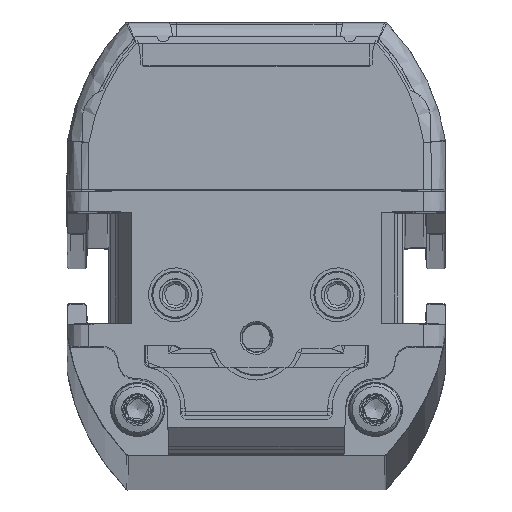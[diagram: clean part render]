
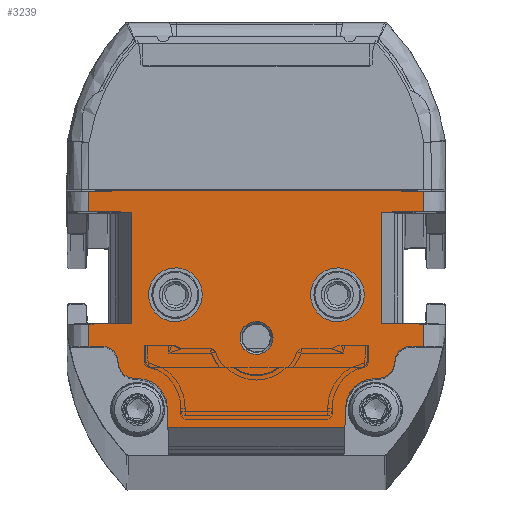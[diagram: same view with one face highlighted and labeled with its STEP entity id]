
A CAD part, top view. The second image highlights one B-rep face of the part: STEP entity #3239.
In plain terms, the highlighted planar face has unit normal (0, 0, 1).
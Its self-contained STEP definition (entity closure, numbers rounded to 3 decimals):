
#1178=FACE_BOUND('',#5343,.T.);
#1179=FACE_BOUND('',#5344,.T.);
#1180=FACE_BOUND('',#5345,.T.);
#1181=FACE_BOUND('',#5346,.T.);
#1900=CIRCLE('',#17502,2.5);
#1901=CIRCLE('',#17504,2.5);
#1902=CIRCLE('',#17506,1.55);
#1905=CIRCLE('',#17576,1.5);
#1906=CIRCLE('',#17577,1.5);
#1907=CIRCLE('',#17578,1.5);
#1908=CIRCLE('',#17579,1.5);
#1909=CIRCLE('',#17580,2.75);
#1910=CIRCLE('',#17581,2.75);
#3239=ADVANCED_FACE('',(#1178,#1179,#1180,#1181),#3754,.T.);
#3754=PLANE('',#17582);
#5343=EDGE_LOOP('',(#9281));
#5344=EDGE_LOOP('',(#9282));
#5345=EDGE_LOOP('',(#9283));
#5346=EDGE_LOOP('',(#9284,#9285,#9286,#9287,#9288,#9289,#9290,#9291,#9292,
#9293,#9294,#9295,#9296,#9297,#9298,#9299,#9300,#9301,#9302,#9303,#9304,
#9305,#9306,#9307,#9308,#9309));
#9281=ORIENTED_EDGE('',*,*,#13579,.T.);
#9282=ORIENTED_EDGE('',*,*,#13578,.F.);
#9283=ORIENTED_EDGE('',*,*,#13577,.F.);
#9284=ORIENTED_EDGE('',*,*,#13699,.F.);
#9285=ORIENTED_EDGE('',*,*,#13700,.T.);
#9286=ORIENTED_EDGE('',*,*,#13701,.T.);
#9287=ORIENTED_EDGE('',*,*,#13702,.T.);
#9288=ORIENTED_EDGE('',*,*,#13630,.T.);
#9289=ORIENTED_EDGE('',*,*,#13576,.T.);
#9290=ORIENTED_EDGE('',*,*,#13573,.T.);
#9291=ORIENTED_EDGE('',*,*,#13572,.T.);
#9292=ORIENTED_EDGE('',*,*,#13698,.T.);
#9293=ORIENTED_EDGE('',*,*,#13703,.F.);
#9294=ORIENTED_EDGE('',*,*,#13704,.F.);
#9295=ORIENTED_EDGE('',*,*,#13705,.F.);
#9296=ORIENTED_EDGE('',*,*,#13692,.T.);
#9297=ORIENTED_EDGE('',*,*,#13568,.F.);
#9298=ORIENTED_EDGE('',*,*,#13564,.T.);
#9299=ORIENTED_EDGE('',*,*,#13563,.F.);
#9300=ORIENTED_EDGE('',*,*,#13603,.T.);
#9301=ORIENTED_EDGE('',*,*,#13706,.F.);
#9302=ORIENTED_EDGE('',*,*,#13707,.T.);
#9303=ORIENTED_EDGE('',*,*,#13708,.T.);
#9304=ORIENTED_EDGE('',*,*,#13709,.F.);
#9305=ORIENTED_EDGE('',*,*,#13710,.F.);
#9306=ORIENTED_EDGE('',*,*,#13711,.F.);
#9307=ORIENTED_EDGE('',*,*,#13611,.T.);
#9308=ORIENTED_EDGE('',*,*,#13712,.F.);
#9309=ORIENTED_EDGE('',*,*,#13713,.F.);
#11499=VERTEX_POINT('',#29891);
#11500=VERTEX_POINT('',#29893);
#11501=VERTEX_POINT('',#29897);
#11502=VERTEX_POINT('',#29901);
#11504=VERTEX_POINT('',#29907);
#11506=VERTEX_POINT('',#29911);
#11507=VERTEX_POINT('',#29915);
#11508=VERTEX_POINT('',#29919);
#11509=VERTEX_POINT('',#29923);
#11510=VERTEX_POINT('',#29926);
#11511=VERTEX_POINT('',#29929);
#11528=VERTEX_POINT('',#30023);
#11533=VERTEX_POINT('',#30037);
#11534=VERTEX_POINT('',#30039);
#11547=VERTEX_POINT('',#30079);
#11581=VERTEX_POINT('',#30332);
#11585=VERTEX_POINT('',#30342);
#11586=VERTEX_POINT('',#30346);
#11587=VERTEX_POINT('',#30347);
#11588=VERTEX_POINT('',#30349);
#11589=VERTEX_POINT('',#30351);
#11590=VERTEX_POINT('',#30354);
#11591=VERTEX_POINT('',#30356);
#11592=VERTEX_POINT('',#30359);
#11593=VERTEX_POINT('',#30361);
#11594=VERTEX_POINT('',#30363);
#11595=VERTEX_POINT('',#30365);
#11596=VERTEX_POINT('',#30367);
#11597=VERTEX_POINT('',#30370);
#13563=EDGE_CURVE('',#11500,#11499,#15088,.T.);
#13564=EDGE_CURVE('',#11501,#11499,#15089,.T.);
#13568=EDGE_CURVE('',#11501,#11502,#15092,.T.);
#13572=EDGE_CURVE('',#11504,#11506,#15095,.T.);
#13573=EDGE_CURVE('',#11507,#11504,#15096,.T.);
#13576=EDGE_CURVE('',#11508,#11507,#15098,.T.);
#13577=EDGE_CURVE('',#11509,#11509,#1900,.T.);
#13578=EDGE_CURVE('',#11510,#11510,#1901,.T.);
#13579=EDGE_CURVE('',#11511,#11511,#1902,.T.);
#13603=EDGE_CURVE('',#11500,#11528,#15113,.T.);
#13611=EDGE_CURVE('',#11533,#11534,#15119,.T.);
#13630=EDGE_CURVE('',#11547,#11508,#15132,.T.);
#13692=EDGE_CURVE('',#11581,#11502,#15175,.T.);
#13698=EDGE_CURVE('',#11506,#11585,#15177,.T.);
#13699=EDGE_CURVE('',#11586,#11587,#15178,.T.);
#13700=EDGE_CURVE('',#11586,#11588,#1905,.T.);
#13701=EDGE_CURVE('',#11588,#11589,#1906,.T.);
#13702=EDGE_CURVE('',#11589,#11547,#15179,.T.);
#13703=EDGE_CURVE('',#11590,#11585,#15180,.T.);
#13704=EDGE_CURVE('',#11591,#11590,#15181,.T.);
#13705=EDGE_CURVE('',#11581,#11591,#15182,.T.);
#13706=EDGE_CURVE('',#11592,#11528,#15183,.T.);
#13707=EDGE_CURVE('',#11592,#11593,#1907,.T.);
#13708=EDGE_CURVE('',#11593,#11594,#1908,.T.);
#13709=EDGE_CURVE('',#11595,#11594,#15184,.T.);
#13710=EDGE_CURVE('',#11596,#11595,#1909,.T.);
#13711=EDGE_CURVE('',#11533,#11596,#15185,.T.);
#13712=EDGE_CURVE('',#11597,#11534,#15186,.T.);
#13713=EDGE_CURVE('',#11587,#11597,#1910,.T.);
#15088=LINE('',#29894,#16251);
#15089=LINE('',#29896,#16252);
#15092=LINE('',#29904,#16255);
#15095=LINE('',#29912,#16258);
#15096=LINE('',#29914,#16259);
#15098=LINE('',#29920,#16261);
#15113=LINE('',#30024,#16276);
#15119=LINE('',#30040,#16282);
#15132=LINE('',#30078,#16295);
#15175=LINE('',#30331,#16338);
#15177=LINE('',#30343,#16340);
#15178=LINE('',#30345,#16341);
#15179=LINE('',#30352,#16342);
#15180=LINE('',#30353,#16343);
#15181=LINE('',#30355,#16344);
#15182=LINE('',#30357,#16345);
#15183=LINE('',#30358,#16346);
#15184=LINE('',#30364,#16347);
#15185=LINE('',#30368,#16348);
#15186=LINE('',#30369,#16349);
#16251=VECTOR('',#20699,1.);
#16252=VECTOR('',#20702,1.);
#16255=VECTOR('',#20709,1.);
#16258=VECTOR('',#20716,1.);
#16259=VECTOR('',#20719,1.);
#16261=VECTOR('',#20725,1.);
#16276=VECTOR('',#20776,1.);
#16282=VECTOR('',#20790,1.);
#16295=VECTOR('',#20829,1.);
#16338=VECTOR('',#20940,1.);
#16340=VECTOR('',#20952,1.);
#16341=VECTOR('',#20955,1.);
#16342=VECTOR('',#20960,1.);
#16343=VECTOR('',#20961,1.);
#16344=VECTOR('',#20962,1.);
#16345=VECTOR('',#20963,1.);
#16346=VECTOR('',#20964,1.);
#16347=VECTOR('',#20969,1.);
#16348=VECTOR('',#20972,1.);
#16349=VECTOR('',#20973,1.);
#17502=AXIS2_PLACEMENT_3D('',#29922,#20728,#20729);
#17504=AXIS2_PLACEMENT_3D('',#29925,#20732,#20733);
#17506=AXIS2_PLACEMENT_3D('',#29928,#20736,#20737);
#17576=AXIS2_PLACEMENT_3D('',#30348,#20956,#20957);
#17577=AXIS2_PLACEMENT_3D('',#30350,#20958,#20959);
#17578=AXIS2_PLACEMENT_3D('',#30360,#20965,#20966);
#17579=AXIS2_PLACEMENT_3D('',#30362,#20967,#20968);
#17580=AXIS2_PLACEMENT_3D('',#30366,#20970,#20971);
#17581=AXIS2_PLACEMENT_3D('',#30371,#20974,#20975);
#17582=AXIS2_PLACEMENT_3D('',#30372,#20976,#20977);
#20699=DIRECTION('',(1.,0.017,0.));
#20702=DIRECTION('',(0.,-1.,0.));
#20709=DIRECTION('',(-1.,0.017,0.));
#20716=DIRECTION('',(1.,0.017,0.));
#20719=DIRECTION('',(0.,1.,0.));
#20725=DIRECTION('',(-1.,0.017,0.));
#20728=DIRECTION('',(0.,0.,1.));
#20729=DIRECTION('',(1.,0.,0.));
#20732=DIRECTION('',(0.,0.,1.));
#20733=DIRECTION('',(1.,0.,0.));
#20736=DIRECTION('',(0.,0.,-1.));
#20737=DIRECTION('',(1.,0.,0.));
#20776=DIRECTION('',(0.,-1.,0.));
#20790=DIRECTION('',(1.,0.,0.));
#20829=DIRECTION('',(0.,1.,0.));
#20940=DIRECTION('',(0.,-1.,0.));
#20952=DIRECTION('',(0.,1.,0.));
#20955=DIRECTION('',(-1.,0.,0.));
#20956=DIRECTION('',(0.,0.,1.));
#20957=DIRECTION('',(1.,0.,0.));
#20958=DIRECTION('',(0.,0.,-1.));
#20959=DIRECTION('',(1.,0.,0.));
#20960=DIRECTION('',(1.,0.,0.));
#20961=DIRECTION('',(1.,-0.017,0.));
#20962=DIRECTION('',(1.,0.,0.));
#20963=DIRECTION('',(1.,0.017,0.));
#20964=DIRECTION('',(-1.,0.,0.));
#20965=DIRECTION('',(0.,0.,-1.));
#20966=DIRECTION('',(1.,0.,0.));
#20967=DIRECTION('',(0.,0.,1.));
#20968=DIRECTION('',(1.,0.,0.));
#20969=DIRECTION('',(-1.,0.,0.));
#20970=DIRECTION('',(0.,0.,1.));
#20971=DIRECTION('',(1.,0.,0.));
#20972=DIRECTION('',(-0.035,0.999,0.));
#20973=DIRECTION('',(-0.035,-0.999,0.));
#20974=DIRECTION('',(0.,0.,1.));
#20975=DIRECTION('',(1.,0.,0.));
#20976=DIRECTION('',(0.,0.,1.));
#20977=DIRECTION('',(1.,0.,0.));
#29891=CARTESIAN_POINT('',(-11.55,12.107,1899.));
#29893=CARTESIAN_POINT('',(-15.5,12.038,1899.));
#29894=CARTESIAN_POINT('',(-17.709,11.999,1899.));
#29896=CARTESIAN_POINT('',(-11.55,0.,1899.));
#29897=CARTESIAN_POINT('',(-11.55,22.393,1899.));
#29901=CARTESIAN_POINT('',(-15.5,22.462,1899.));
#29904=CARTESIAN_POINT('',(-17.107,22.49,1899.));
#29907=CARTESIAN_POINT('',(11.55,22.393,1899.));
#29911=CARTESIAN_POINT('',(15.5,22.462,1899.));
#29912=CARTESIAN_POINT('',(-17.882,21.88,1899.));
#29914=CARTESIAN_POINT('',(11.55,0.,1899.));
#29915=CARTESIAN_POINT('',(11.55,12.107,1899.));
#29919=CARTESIAN_POINT('',(15.5,12.038,1899.));
#29920=CARTESIAN_POINT('',(-17.28,12.61,1899.));
#29922=CARTESIAN_POINT('',(-7.5,14.75,1899.));
#29923=CARTESIAN_POINT('',(-5.,14.75,1899.));
#29925=CARTESIAN_POINT('',(7.5,14.75,1899.));
#29926=CARTESIAN_POINT('',(10.,14.75,1899.));
#29928=CARTESIAN_POINT('',(0.,10.75,1899.));
#29929=CARTESIAN_POINT('',(1.55,10.75,1899.));
#30023=CARTESIAN_POINT('',(-15.5,10.,1899.));
#30024=CARTESIAN_POINT('',(-15.5,0.,1899.));
#30037=CARTESIAN_POINT('',(-8.189,2.5,1899.));
#30039=CARTESIAN_POINT('',(8.189,2.5,1899.));
#30040=CARTESIAN_POINT('',(-17.5,2.5,1899.));
#30078=CARTESIAN_POINT('',(15.5,0.,1899.));
#30079=CARTESIAN_POINT('',(15.5,10.,1899.));
#30331=CARTESIAN_POINT('',(-15.5,0.,1899.));
#30332=CARTESIAN_POINT('',(-15.5,24.317,1899.));
#30342=CARTESIAN_POINT('',(15.5,24.317,1899.));
#30343=CARTESIAN_POINT('',(15.5,0.,1899.));
#30345=CARTESIAN_POINT('',(23.25,7.,1899.));
#30346=CARTESIAN_POINT('',(11.3,7.,1899.));
#30347=CARTESIAN_POINT('',(11.002,7.,1899.));
#30348=CARTESIAN_POINT('',(11.3,8.5,1899.));
#30349=CARTESIAN_POINT('',(12.8,8.5,1899.));
#30350=CARTESIAN_POINT('',(14.3,8.5,1899.));
#30351=CARTESIAN_POINT('',(14.3,10.,1899.));
#30352=CARTESIAN_POINT('',(-17.5,10.,1899.));
#30353=CARTESIAN_POINT('',(-17.066,24.886,1899.));
#30354=CARTESIAN_POINT('',(13.025,24.36,1899.));
#30355=CARTESIAN_POINT('',(-17.5,24.36,1899.));
#30356=CARTESIAN_POINT('',(-13.025,24.36,1899.));
#30357=CARTESIAN_POINT('',(-17.924,24.275,1899.));
#30358=CARTESIAN_POINT('',(-17.5,10.,1899.));
#30359=CARTESIAN_POINT('',(-14.3,10.,1899.));
#30360=CARTESIAN_POINT('',(-14.3,8.5,1899.));
#30361=CARTESIAN_POINT('',(-12.8,8.5,1899.));
#30362=CARTESIAN_POINT('',(-11.3,8.5,1899.));
#30363=CARTESIAN_POINT('',(-11.3,7.,1899.));
#30364=CARTESIAN_POINT('',(-11.,7.,1899.));
#30365=CARTESIAN_POINT('',(-11.002,7.,1899.));
#30366=CARTESIAN_POINT('',(-11.002,4.25,1899.));
#30367=CARTESIAN_POINT('',(-8.253,4.346,1899.));
#30368=CARTESIAN_POINT('',(-8.25,4.25,1899.));
#30369=CARTESIAN_POINT('',(8.25,4.25,1899.));
#30370=CARTESIAN_POINT('',(8.253,4.346,1899.));
#30371=CARTESIAN_POINT('',(11.002,4.25,1899.));
#30372=CARTESIAN_POINT('',(-17.5,0.,1899.));
